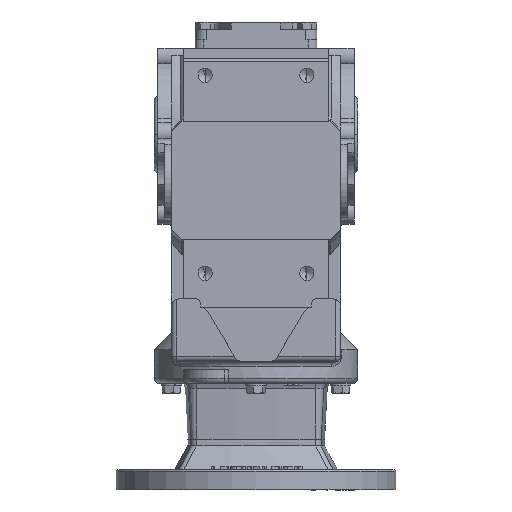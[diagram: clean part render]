
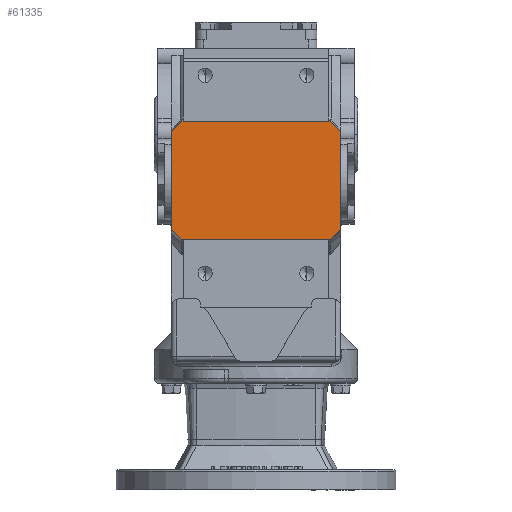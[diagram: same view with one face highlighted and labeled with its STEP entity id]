
A CAD part, front view. The second image highlights one B-rep face of the part: STEP entity #61335.
In plain terms, the highlighted planar face has unit normal (0, -1, 0).
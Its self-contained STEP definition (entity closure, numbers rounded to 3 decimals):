
#3255 = CARTESIAN_POINT ( 'NONE',  ( 50., -97., -56. ) ) ;
#3257 = CARTESIAN_POINT ( 'NONE',  ( -44., -97., 8. ) ) ;
#3260 = CARTESIAN_POINT ( 'NONE',  ( -43.011, -97., -62. ) ) ;
#3264 = CARTESIAN_POINT ( 'NONE',  ( -50., -97., 2. ) ) ;
#3266 = CARTESIAN_POINT ( 'NONE',  ( -44., -97., -62. ) ) ;
#3285 = CARTESIAN_POINT ( 'NONE',  ( 50., -97., 2. ) ) ;
#7093 = CARTESIAN_POINT ( 'NONE',  ( 43., -97., 8. ) ) ;
#7096 = CARTESIAN_POINT ( 'NONE',  ( 44., -97., -62. ) ) ;
#7098 = CARTESIAN_POINT ( 'NONE',  ( 44., -97., 8. ) ) ;
#7099 = CARTESIAN_POINT ( 'NONE',  ( -50., -97., -56. ) ) ;
#7100 = CARTESIAN_POINT ( 'NONE',  ( -43., -97., 8. ) ) ;
#7103 = CARTESIAN_POINT ( 'NONE',  ( 43.011, -97., -62. ) ) ;
#10888 = LINE ( 'NONE', #32395, #10893 ) ;
#10893 = VECTOR ( 'NONE', #32423, 1000. ) ;
#15064 = ORIENTED_EDGE ( 'NONE', *, *, #54905, .T. ) ;
#15065 = ORIENTED_EDGE ( 'NONE', *, *, #54907, .T. ) ;
#15066 = ORIENTED_EDGE ( 'NONE', *, *, #54892, .T. ) ;
#15067 = ORIENTED_EDGE ( 'NONE', *, *, #54909, .T. ) ;
#15068 = ORIENTED_EDGE ( 'NONE', *, *, #54911, .T. ) ;
#15069 = ORIENTED_EDGE ( 'NONE', *, *, #54913, .T. ) ;
#15070 = ORIENTED_EDGE ( 'NONE', *, *, #54753, .F. ) ;
#15071 = ORIENTED_EDGE ( 'NONE', *, *, #54916, .T. ) ;
#15072 = ORIENTED_EDGE ( 'NONE', *, *, #54918, .T. ) ;
#15073 = ORIENTED_EDGE ( 'NONE', *, *, #54920, .F. ) ;
#15074 = ORIENTED_EDGE ( 'NONE', *, *, #54922, .F. ) ;
#15075 = ORIENTED_EDGE ( 'NONE', *, *, #54924, .T. ) ;
#18371 = FACE_OUTER_BOUND ( 'NONE', #39058, .T. ) ;
#19826 = AXIS2_PLACEMENT_3D ( 'NONE', #49170, #49176, #49177 ) ;
#29694 = LINE ( 'NONE', #32714, #29698 ) ;
#29698 = VECTOR ( 'NONE', #32717, 1000. ) ;
#29708 = LINE ( 'NONE', #32719, #29720 ) ;
#29714 = LINE ( 'NONE', #32727, #29724 ) ;
#29718 = LINE ( 'NONE', #32729, #29728 ) ;
#29720 = VECTOR ( 'NONE', #32730, 1000. ) ;
#29722 = LINE ( 'NONE', #32731, #29732 ) ;
#29724 = VECTOR ( 'NONE', #32732, 1000. ) ;
#29726 = LINE ( 'NONE', #32733, #29736 ) ;
#29728 = VECTOR ( 'NONE', #32734, 1000. ) ;
#29730 = LINE ( 'NONE', #32737, #29739 ) ;
#29732 = VECTOR ( 'NONE', #32736, 1000. ) ;
#29734 = LINE ( 'NONE', #32740, #29747 ) ;
#29736 = VECTOR ( 'NONE', #32738, 1000. ) ;
#29738 = LINE ( 'NONE', #32739, #29743 ) ;
#29739 = VECTOR ( 'NONE', #32735, 1000. ) ;
#29741 = LINE ( 'NONE', #32741, #29750 ) ;
#29743 = VECTOR ( 'NONE', #32742, 1000. ) ;
#29745 = LINE ( 'NONE', #32745, #29754 ) ;
#29747 = VECTOR ( 'NONE', #32744, 1000. ) ;
#29750 = VECTOR ( 'NONE', #32746, 1000. ) ;
#29754 = VECTOR ( 'NONE', #32743, 1000. ) ;
#32395 = CARTESIAN_POINT ( 'NONE',  ( 50., -97., 8. ) ) ;
#32423 = DIRECTION ( 'NONE',  ( 0., 0., -1. ) ) ;
#32714 = CARTESIAN_POINT ( 'NONE',  ( -60., -97., -62. ) ) ;
#32717 = DIRECTION ( 'NONE',  ( 1., 0., 0. ) ) ;
#32719 = CARTESIAN_POINT ( 'NONE',  ( -50., -97., -62. ) ) ;
#32727 = CARTESIAN_POINT ( 'NONE',  ( -44., -97., -62. ) ) ;
#32729 = CARTESIAN_POINT ( 'NONE',  ( -60., -97., -62. ) ) ;
#32730 = DIRECTION ( 'NONE',  ( 0., 0., -1. ) ) ;
#32731 = CARTESIAN_POINT ( 'NONE',  ( -60., -97., -62. ) ) ;
#32732 = DIRECTION ( 'NONE',  ( 0.707, 0., -0.707 ) ) ;
#32733 = CARTESIAN_POINT ( 'NONE',  ( 50., -97., -56. ) ) ;
#32734 = DIRECTION ( 'NONE',  ( 1., 0., 0. ) ) ;
#32735 = DIRECTION ( 'NONE',  ( -0.707, 0., 0.707 ) ) ;
#32736 = DIRECTION ( 'NONE',  ( 1., 0., 0. ) ) ;
#32737 = CARTESIAN_POINT ( 'NONE',  ( 50., -97., 2. ) ) ;
#32738 = DIRECTION ( 'NONE',  ( 0.707, 0., 0.707 ) ) ;
#32739 = CARTESIAN_POINT ( 'NONE',  ( -60., -97., 8. ) ) ;
#32740 = CARTESIAN_POINT ( 'NONE',  ( -60., -97., 8. ) ) ;
#32741 = CARTESIAN_POINT ( 'NONE',  ( -60., -97., 8. ) ) ;
#32742 = DIRECTION ( 'NONE',  ( -1., 0., 0. ) ) ;
#32743 = DIRECTION ( 'NONE',  ( -0.707, 0., -0.707 ) ) ;
#32744 = DIRECTION ( 'NONE',  ( 1., 0., 0. ) ) ;
#32745 = CARTESIAN_POINT ( 'NONE',  ( -44., -97., 8. ) ) ;
#32746 = DIRECTION ( 'NONE',  ( 1., 0., 0. ) ) ;
#35525 = VERTEX_POINT ( 'NONE', #3257 ) ;
#35567 = VERTEX_POINT ( 'NONE', #3260 ) ;
#35573 = VERTEX_POINT ( 'NONE', #3264 ) ;
#35580 = VERTEX_POINT ( 'NONE', #3255 ) ;
#35597 = VERTEX_POINT ( 'NONE', #3266 ) ;
#35609 = VERTEX_POINT ( 'NONE', #3285 ) ;
#39058 = EDGE_LOOP ( 'NONE', ( #15064, #15065, #15066, #15067, #15068, #15069, #15070, #15071, #15072, #15073, #15074, #15075 ) ) ;
#49170 = CARTESIAN_POINT ( 'NONE',  ( -60., -97., 8. ) ) ;
#49174 = PLANE ( 'NONE',  #19826 ) ;
#49176 = DIRECTION ( 'NONE',  ( 0., 1., 0. ) ) ;
#49177 = DIRECTION ( 'NONE',  ( -1., 0., 0. ) ) ;
#54753 = EDGE_CURVE ( 'NONE', #35609, #35580, #10888, .T. ) ;
#54892 = EDGE_CURVE ( 'NONE', #35597, #35567, #29694, .T. ) ;
#54905 = EDGE_CURVE ( 'NONE', #35573, #56678, #29708, .T. ) ;
#54907 = EDGE_CURVE ( 'NONE', #56678, #35597, #29714, .T. ) ;
#54909 = EDGE_CURVE ( 'NONE', #35567, #56687, #29718, .T. ) ;
#54911 = EDGE_CURVE ( 'NONE', #56687, #56672, #29722, .T. ) ;
#54913 = EDGE_CURVE ( 'NONE', #56672, #35580, #29726, .T. ) ;
#54916 = EDGE_CURVE ( 'NONE', #35609, #56676, #29730, .T. ) ;
#54918 = EDGE_CURVE ( 'NONE', #56676, #56666, #29738, .T. ) ;
#54920 = EDGE_CURVE ( 'NONE', #56681, #56666, #29734, .T. ) ;
#54922 = EDGE_CURVE ( 'NONE', #35525, #56681, #29741, .T. ) ;
#54924 = EDGE_CURVE ( 'NONE', #35525, #35573, #29745, .T. ) ;
#56666 = VERTEX_POINT ( 'NONE', #7093 ) ;
#56672 = VERTEX_POINT ( 'NONE', #7096 ) ;
#56676 = VERTEX_POINT ( 'NONE', #7098 ) ;
#56678 = VERTEX_POINT ( 'NONE', #7099 ) ;
#56681 = VERTEX_POINT ( 'NONE', #7100 ) ;
#56687 = VERTEX_POINT ( 'NONE', #7103 ) ;
#61335 = ADVANCED_FACE ( 'NONE', ( #18371 ), #49174, .F. ) ;
